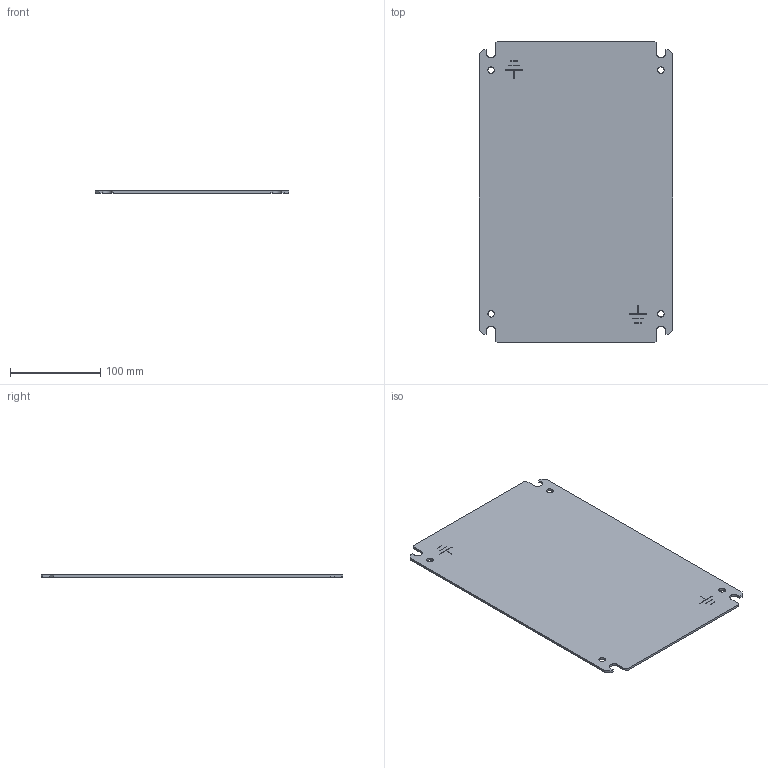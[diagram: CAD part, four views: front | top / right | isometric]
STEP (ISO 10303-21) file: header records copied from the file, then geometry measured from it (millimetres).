
FILE_DESCRIPTION((''),'2;1');
FILE_NAME('D:\scratch\ideas\pnl_atex_380x260.stp', '2007-03-15T12:09:59',('User'),('SDRC'),'I-DEAS Master Series 9','UNIX', 'Yes');
FILE_SCHEMA(('AUTOMOTIVE_DESIGN { 1 0 10303 214 0 1 1 1 }'));
Length unit declared in the file: inch
Products named in the file (1): 87923531
Bounding box: 214.28 x 334.28 x 2.46 mm (x, y, z)
Volume: 173427.3 mm3; surface area: 143885.5 mm2
Topology: 1 solids, 1 shells, 72 faces, 193 edges, 129 vertices
Faces by surface type: bspline 72
Entity records: 2186 total; most frequent: CARTESIAN_POINT 932, ORIENTED_EDGE 384, EDGE_CURVE 192, VERTEX_POINT 128, QUASI_UNIFORM_CURVE 127, EDGE_LOOP 86, FACE_OUTER_BOUND 72, ADVANCED_FACE 72
